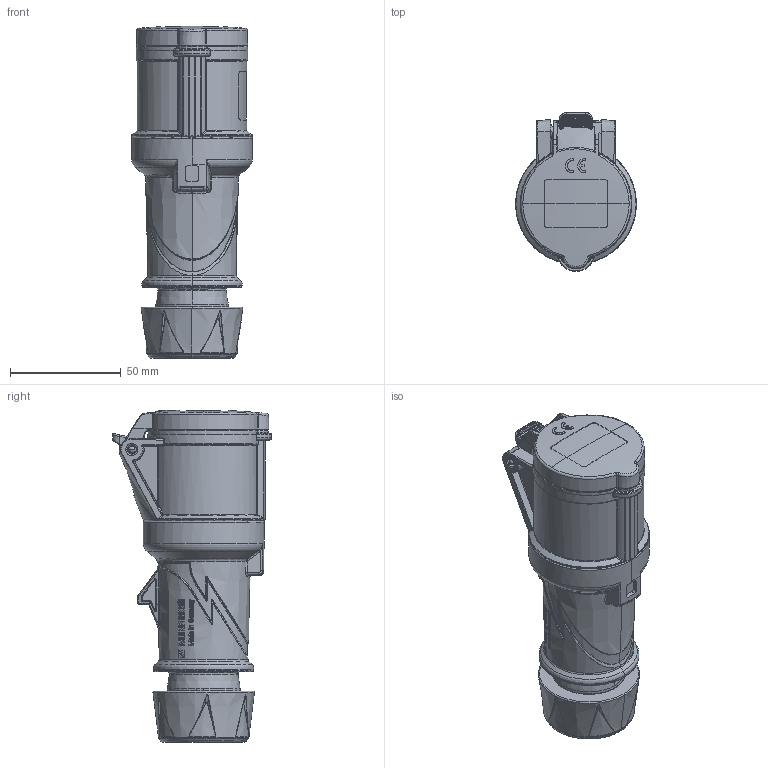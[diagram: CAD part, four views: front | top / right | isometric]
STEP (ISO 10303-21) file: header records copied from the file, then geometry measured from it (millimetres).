
FILE_DESCRIPTION((''),'2;1');
FILE_NAME('1109617_ASM_SW0005','2021-07-16T08:06:16',('schlabachr'),('MENNEKES'),'CREO PARAMETRIC BY PTC INC, 2019080','CREO PARAMETRIC BY PTC INC, 2019080','');
FILE_SCHEMA(('AUTOMOTIVE_DESIGN { 1 0 10303 214 1 1 1 1 }'));
Length unit declared in the file: millimetre
Products named in the file (1): 1109617_ASM_SW0005
Bounding box: 54.6 x 71.79 x 150.11 mm (x, y, z)
Volume: 249703.4 mm3; surface area: 33786 mm2
Topology: 1 solids, 1 shells, 1803 faces, 4479 edges, 2742 vertices
Faces by surface type: bspline 913, extrusion 257, plane 215, cylinder 183, cone 111, torus 93, sphere 31
Entity records: 114113 total; most frequent: CARTESIAN_POINT 63441, ORIENTED_EDGE 8940, DIRECTION 4593, EDGE_CURVE 4470, B_SPLINE_CURVE_WITH_KNOTS 2817, VERTEX_POINT 2742, FILL_AREA_STYLE_COLOUR 2165, FILL_AREA_STYLE 2165
